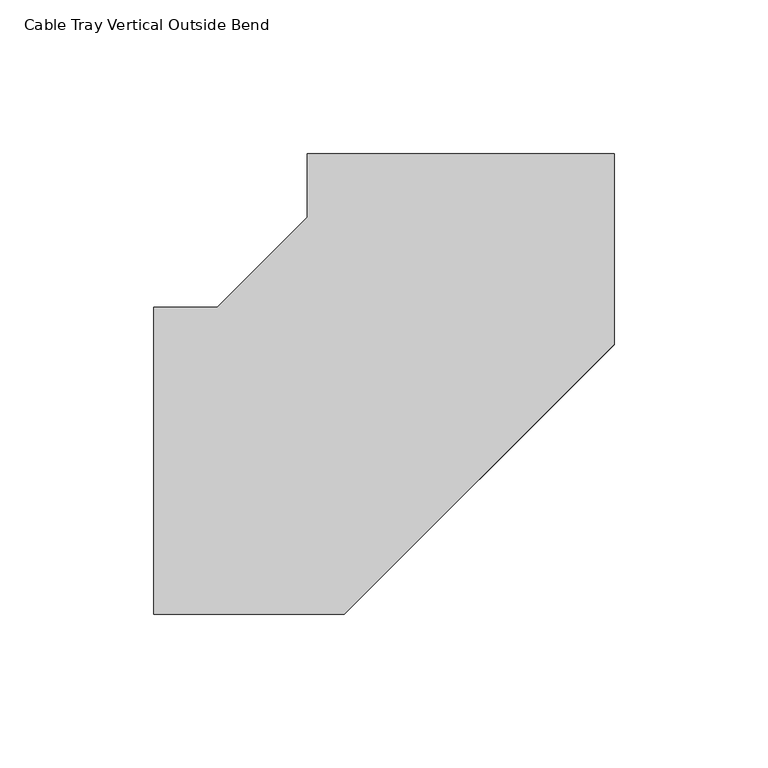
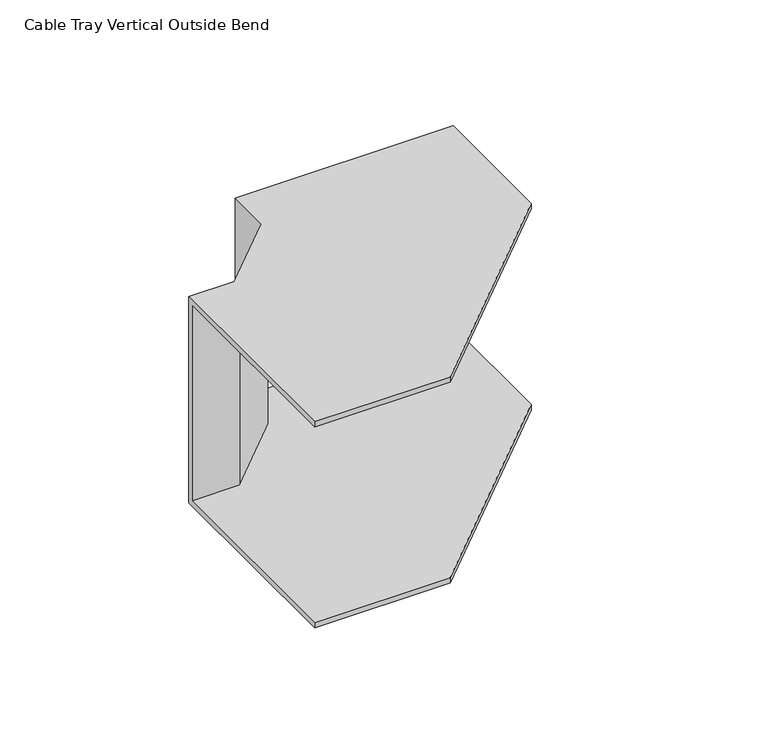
"""IFC4 building model written with IfcOpenShell, lengths in millimetres: cable carrier fitting geometry, Cable Tray Vertical Outside Bend : ELEC_ELV_TKG_N2402."""

from ifc_helpers import new_model, si_unit, origin, place, context, project, spatial, faceted_brep, source, transform, mapped, element, save


def cable_tray_vertical_outside_bend_21d388a0(model_context):
    return source(origin(), model_context, "Body", "Brep", [
        faceted_brep([(-99.995578, -50.0, 50.0), (-99.995578, 50.0, 50.0), (-99.995578, 50.0, -50.0), (-99.995578, -50.0, -50.0), (-99.995578, -50.0, -47.46), (-99.995578, 47.46, -47.46), (-99.995578, 47.46, 47.46), (-99.995578, -50.0, 47.46), (50.0044219, 99.9933668, 50.0), (50.0044219, 99.9933668, 47.46), (-47.4555781, 99.9976766, 47.46), (-47.4555781, 99.9976766, -47.46), (50.0044219, 99.9933668, -47.46), (50.0044219, 99.9933668, -50.0), (-49.995578, 99.9977889, -50.0), (-49.995578, 99.9977889, 50.0), (-37.8654864, -50.0, 50.0), (50.0016744, 37.8632753, 50.0), (-49.9964939, 79.2877584, 50.0), (-79.2855475, 50.0, 50.0), (-79.2855475, 50.0, -50.0), (-49.9964939, 79.2877584, -50.0), (50.0016744, 37.8632753, -50.0), (-37.8654864, -50.0, -50.0), (-37.8654864, -50.0, -47.46), (50.0016744, 37.8632753, -47.46), (-47.4565404, 78.2355766, -47.46), (-78.2334779, 47.46, -47.46), (-78.2334779, 47.46, 47.46), (-47.4565404, 78.2355766, 47.46), (50.0016744, 37.8632753, 47.46), (-37.8654864, -50.0, 47.46)], [[[0, 1, 2, 3, 4, 5, 6, 7]], [[8, 9, 10, 11, 12, 13, 14, 15]], [[1, 0, 16, 17, 8, 15, 18, 19]], [[2, 1, 19, 20]], [[3, 2, 20, 21, 14, 13, 22, 23]], [[4, 3, 23, 24]], [[5, 4, 24, 25, 12, 11, 26, 27]], [[6, 5, 27, 28]], [[7, 6, 28, 29, 10, 9, 30, 31]], [[0, 7, 31, 16]], [[20, 19, 18, 21]], [[24, 23, 22, 25]], [[28, 27, 26, 29]], [[16, 31, 30, 17]], [[21, 18, 15, 14]], [[25, 22, 13, 12]], [[29, 26, 11, 10]], [[17, 30, 9, 8]]]),
    ])


if __name__ == "__main__":
    model = new_model("IFC4")
    model_context = context("Model", 3, world=origin())
    ifc_project = project(units=[si_unit("LENGTHUNIT", "METRE", prefix="MILLI")], contexts=[model_context])
    site = spatial("IfcSite", under=ifc_project)
    building = spatial("IfcBuilding", under=site)
    placement = place(None, origin())
    cable_tray_vertical_outside_bend_shape = cable_tray_vertical_outside_bend_21d388a0(model_context)
    element("IfcCableCarrierFitting", 1, ObjectType="Cable Tray Vertical Outside Bend : ELEC_ELV_TKG_N2402", at=placement, inside=building, context=model_context, shape_type="MappedRepresentation", body=[
        mapped(cable_tray_vertical_outside_bend_shape, transform((0.0, 0.0, 0.0), x_axis=(1.0, 0.0, 0.0), y_axis=(0.0, 1.0, 0.0), z_axis=(0.0, 0.0, 1.0))),
    ])
    save(model, "model.ifc")
